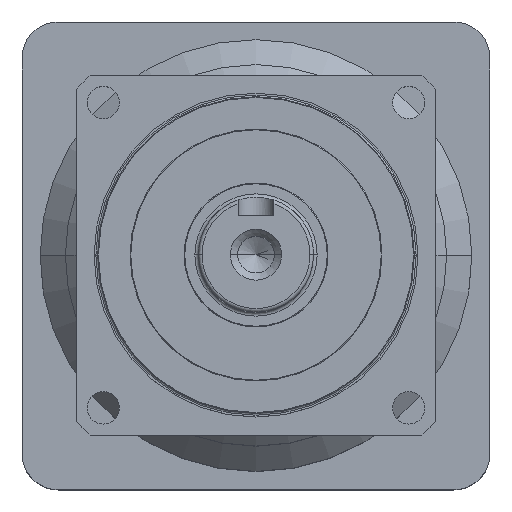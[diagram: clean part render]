
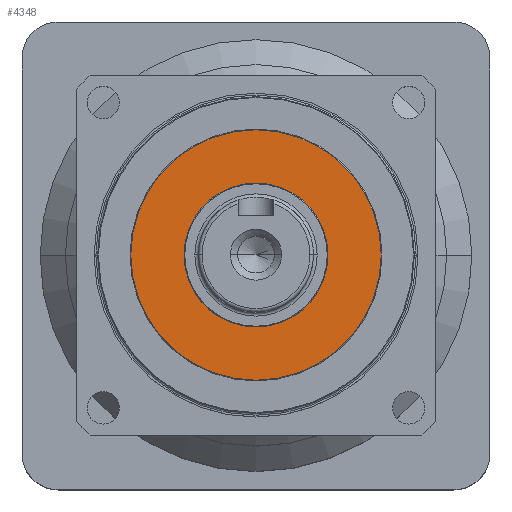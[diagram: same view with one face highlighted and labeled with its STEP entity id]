
A CAD part, top view. The second image highlights one B-rep face of the part: STEP entity #4348.
In plain terms, the highlighted planar face has unit normal (0, 0, 1).
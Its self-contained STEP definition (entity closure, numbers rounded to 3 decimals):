
#324 = CARTESIAN_POINT ( 'NONE',  ( -34.8, 0., 39. ) ) ;
#369 = VERTEX_POINT ( 'NONE', #3518 ) ;
#674 = VERTEX_POINT ( 'NONE', #2338 ) ;
#689 = DIRECTION ( 'NONE',  ( 1., 0., 0. ) ) ;
#1039 = DIRECTION ( 'NONE',  ( 1., 0., 0. ) ) ;
#1114 = DIRECTION ( 'NONE',  ( 0., 0., 1. ) ) ;
#1318 = DIRECTION ( 'NONE',  ( 1., 0., 0. ) ) ;
#1396 = CARTESIAN_POINT ( 'NONE',  ( 0., 0., 39. ) ) ;
#1427 = ORIENTED_EDGE ( 'NONE', *, *, #2260, .T. ) ;
#1451 = DIRECTION ( 'NONE',  ( 0., 0., 1. ) ) ;
#1627 = CARTESIAN_POINT ( 'NONE',  ( 0., 0., 39. ) ) ;
#1756 = EDGE_CURVE ( 'NONE', #674, #2609, #3787, .T. ) ;
#1898 = ORIENTED_EDGE ( 'NONE', *, *, #1756, .F. ) ;
#2053 = EDGE_CURVE ( 'NONE', #3223, #369, #3338, .T. ) ;
#2260 = EDGE_CURVE ( 'NONE', #369, #3223, #3630, .T. ) ;
#2338 = CARTESIAN_POINT ( 'NONE',  ( 20., 0., 39. ) ) ;
#2593 = CARTESIAN_POINT ( 'NONE',  ( -20., 0., 39. ) ) ;
#2609 = VERTEX_POINT ( 'NONE', #2593 ) ;
#2845 = CARTESIAN_POINT ( 'NONE',  ( 0., 0., 39. ) ) ;
#2865 = DIRECTION ( 'NONE',  ( 0., 0., 1. ) ) ;
#2895 = CARTESIAN_POINT ( 'NONE',  ( 0., 0., 39. ) ) ;
#2994 = CIRCLE ( 'NONE', #3222, 20. ) ;
#3124 = DIRECTION ( 'NONE',  ( 0., 0., 1. ) ) ;
#3222 = AXIS2_PLACEMENT_3D ( 'NONE', #2845, #3796, #1039 ) ;
#3223 = VERTEX_POINT ( 'NONE', #324 ) ;
#3338 = CIRCLE ( 'NONE', #3882, 34.8 ) ;
#3450 = PLANE ( 'NONE',  #4307 ) ;
#3518 = CARTESIAN_POINT ( 'NONE',  ( 34.8, 0., 39. ) ) ;
#3579 = AXIS2_PLACEMENT_3D ( 'NONE', #1396, #1451, #4186 ) ;
#3630 = CIRCLE ( 'NONE', #3579, 34.8 ) ;
#3787 = CIRCLE ( 'NONE', #4195, 20. ) ;
#3796 = DIRECTION ( 'NONE',  ( 0., 0., 1. ) ) ;
#3863 = ORIENTED_EDGE ( 'NONE', *, *, #2053, .T. ) ;
#3882 = AXIS2_PLACEMENT_3D ( 'NONE', #5406, #3124, #1318 ) ;
#3889 = EDGE_LOOP ( 'NONE', ( #3863, #1427 ) ) ;
#4186 = DIRECTION ( 'NONE',  ( 1., 0., 0. ) ) ;
#4195 = AXIS2_PLACEMENT_3D ( 'NONE', #2895, #2865, #5171 ) ;
#4307 = AXIS2_PLACEMENT_3D ( 'NONE', #1627, #1114, #689 ) ;
#4348 = ADVANCED_FACE ( 'NONE', ( #4796, #5521 ), #3450, .T. ) ;
#4652 = EDGE_LOOP ( 'NONE', ( #5079, #1898 ) ) ;
#4796 = FACE_BOUND ( 'NONE', #4652, .T. ) ;
#5079 = ORIENTED_EDGE ( 'NONE', *, *, #5598, .F. ) ;
#5171 = DIRECTION ( 'NONE',  ( 1., 0., 0. ) ) ;
#5406 = CARTESIAN_POINT ( 'NONE',  ( 0., 0., 39. ) ) ;
#5521 = FACE_OUTER_BOUND ( 'NONE', #3889, .T. ) ;
#5598 = EDGE_CURVE ( 'NONE', #2609, #674, #2994, .T. ) ;
